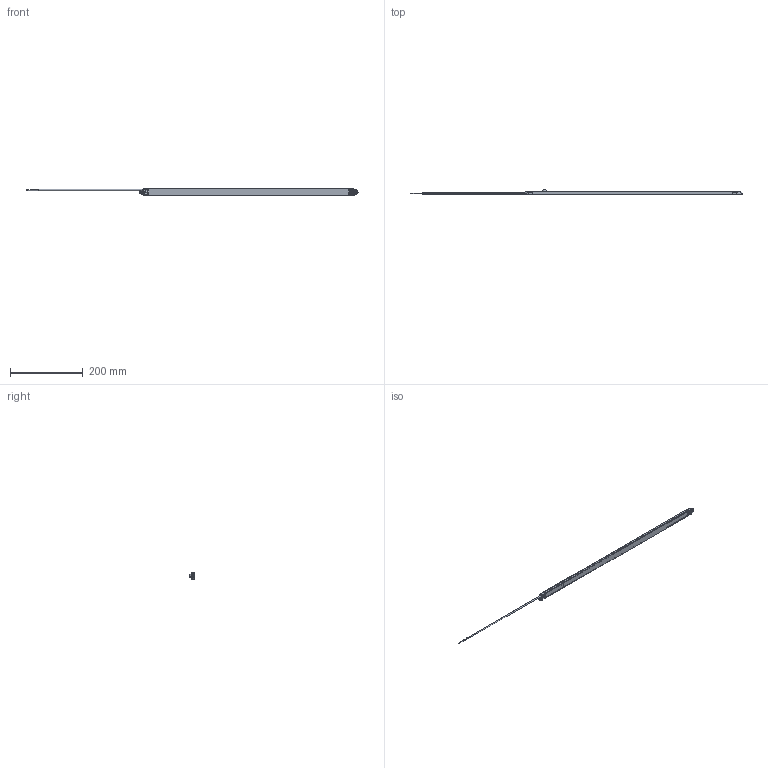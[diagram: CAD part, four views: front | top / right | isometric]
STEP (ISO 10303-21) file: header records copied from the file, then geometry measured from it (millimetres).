
FILE_DESCRIPTION (( 'STEP AP203' ), '1' );
FILE_NAME ('LAP600PIR.STEP', '2021-12-20T08:20:05', ( '' ), ( '' ), 'SwSTEP 2.0', 'SolidWorks 2018', '' );
FILE_SCHEMA (( 'CONFIG_CONTROL_DESIGN' ));
Length unit declared in the file: millimetre
Products named in the file (10): 63202153; 63202157; 63202280_2.9mmX13mm; 63202282; 63202230; LAP600PIR; 63202232; 63202150; 63202151; 63202152
Assembly tree (11 placements, depth 2):
  LAP600PIR
    63202230
    63202232
    63202150
    63202151
    63202152  x2
    63202153
    63202157
    63202280_2.9mmX13mm  x2
    63202282
Bounding box: 911.41 x 13.7 x 17.84 mm (x, y, z)
Volume: 40213.7 mm3; surface area: 70187.1 mm2
Topology: 19 solids, 19 shells, 623 faces, 1583 edges, 1033 vertices
Faces by surface type: plane 287, cylinder 154, bspline 128, torus 32, cone 16, sphere 6
Entity records: 31617 total; most frequent: CARTESIAN_POINT 17425, ORIENTED_EDGE 2824, DIRECTION 2528, EDGE_CURVE 1412, VERTEX_POINT 925, AXIS2_PLACEMENT_3D 849, VECTOR 830, LINE 830
